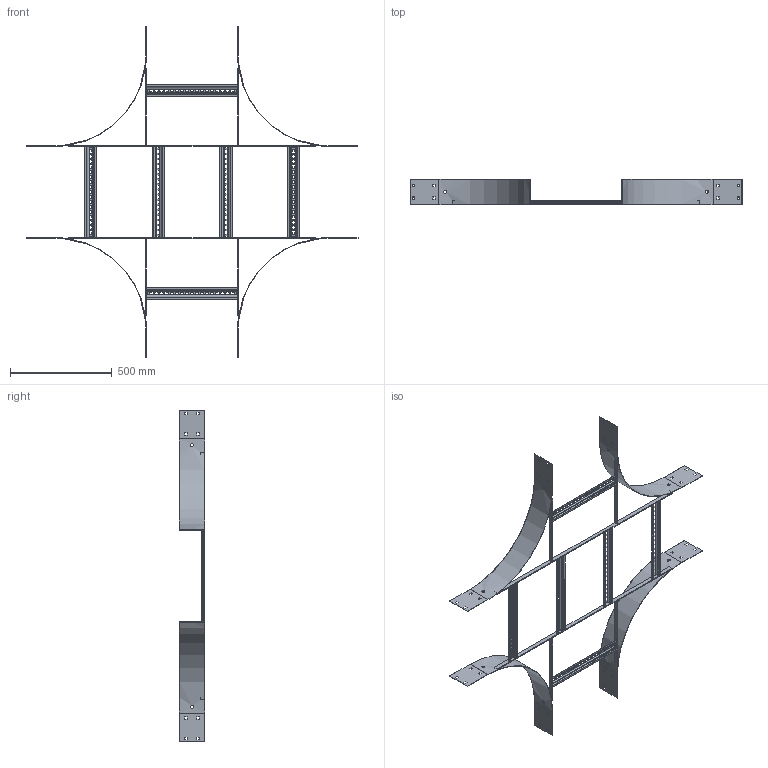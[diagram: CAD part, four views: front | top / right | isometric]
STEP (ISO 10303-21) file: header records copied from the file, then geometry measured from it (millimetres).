
FILE_DESCRIPTION (( 'STEP AP203' ), '1' );
FILE_NAME ('N3 C 4504.STEP', '2024-08-27T05:48:18', ( '' ), ( '' ), 'SwSTEP 2.0', 'SolidWorks 2023', '' );
FILE_SCHEMA (( 'CONFIG_CONTROL_DESIGN' ));
Length unit declared in the file: millimetre
Products named in the file (5): Ladder Tee 20x5 Flat Bar_1216; Ladder Tee 20x5 Flat Bar_378; Ladder Rung_Ladder Rung -  450mm; N3 RADIUS PLATE_N1-450 IR; N3 C 4504
Assembly tree (16 placements, depth 2):
  N3 C 4504
    Ladder Rung_Ladder Rung -  450mm  x6
    Ladder Tee 20x5 Flat Bar_1216  x2
    N3 RADIUS PLATE_N1-450 IR  x4
    Ladder Tee 20x5 Flat Bar_378  x4
Bounding box: 1635 x 124 x 1635 mm (x, y, z)
Volume: 1653202.8 mm3; surface area: 1570676.5 mm2
Topology: 16 solids, 16 shells, 920 faces, 2440 edges, 1552 vertices
Faces by surface type: plane 848, cylinder 72
Entity records: 6627 total; most frequent: CARTESIAN_POINT 1295, ORIENTED_EDGE 928, DIRECTION 866, EDGE_CURVE 464, VECTOR 436, LINE 436, VERTEX_POINT 296, EDGE_LOOP 230
